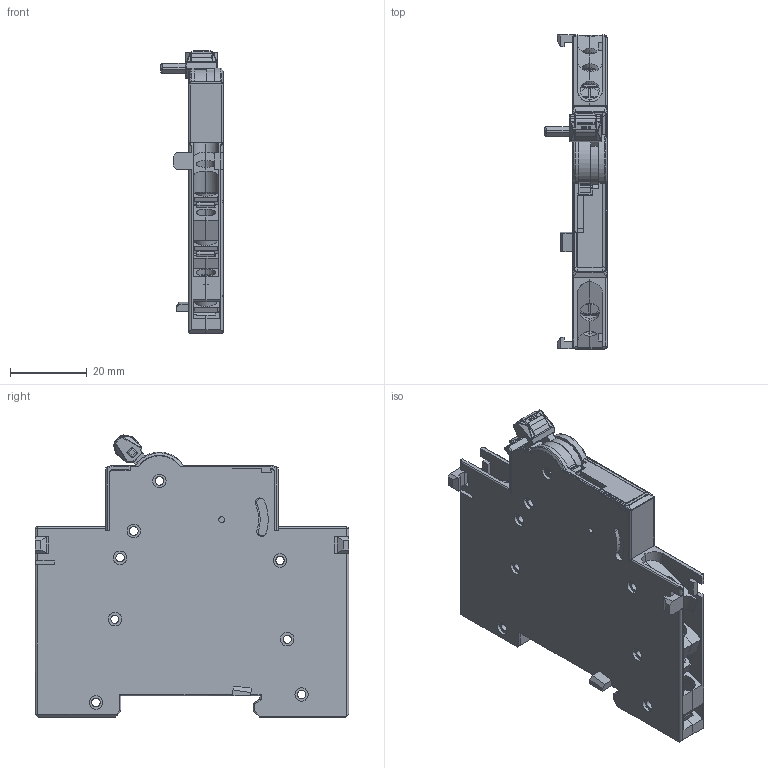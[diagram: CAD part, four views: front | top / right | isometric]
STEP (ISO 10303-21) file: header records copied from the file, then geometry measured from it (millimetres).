
FILE_DESCRIPTION (( 'STEP AP214' ), '1' );
FILE_NAME ('3D Model TGB3-OF3.stp.STEP', '2025-12-15T12:47:25', ( '' ), ( '' ), 'SwSTEP 2.0', 'SolidWorks 2024', '' );
FILE_SCHEMA (( 'AUTOMOTIVE_DESIGN' ));
Length unit declared in the file: millimetre
Products named in the file (21): ADMI1CFC0541PIPC_32.stp; ADMI1CFC0541PIPC_47.stp; ADMI1CFC0541PIPC_36.stp; ADMI1CFC0541PIPC_45.stp; ADMI1CFC0541PIPC_48.stp; ADMI1CFC0541PIPC_34.stp; ADMI1CFC0541PIPC_30.stp; ADMI1CFC0541PIPC_27.stp; ADMI1CFC0541PIPC_38.stp; ADMI1CFC0541PIPC_37.stp; ADMI1CFC0541PIPC_26.stp; ADMI1CFC0541PIPC_43.stp; ADMI1CFC0541PIPC_35.stp; ADMI1CFC0541PIPC_39.stp; ADMI1CFC0541PIPC_40.stp; ADMI1CFC0541PIPC_49.stp; ADMI1CFC0541PIPC_33.stp; 3D Model TGB3-OF3.stp; ADMI1CFC0541PIPC_46.stp; ADMI1CFC0541PIPC_28.stp; ADMI1CFC0541PIPC_41.stp
Assembly tree (20 placements, depth 2):
  3D Model TGB3-OF3.stp
    ADMI1CFC0541PIPC_26.stp
    ADMI1CFC0541PIPC_27.stp
    ADMI1CFC0541PIPC_28.stp
    ADMI1CFC0541PIPC_30.stp
    ADMI1CFC0541PIPC_32.stp
    ADMI1CFC0541PIPC_33.stp
    ADMI1CFC0541PIPC_34.stp
    ADMI1CFC0541PIPC_35.stp
    ADMI1CFC0541PIPC_36.stp
    ADMI1CFC0541PIPC_37.stp
    ADMI1CFC0541PIPC_38.stp
    ADMI1CFC0541PIPC_39.stp
    ADMI1CFC0541PIPC_40.stp
    ADMI1CFC0541PIPC_41.stp
    ADMI1CFC0541PIPC_43.stp
    ADMI1CFC0541PIPC_45.stp
    ADMI1CFC0541PIPC_46.stp
    ADMI1CFC0541PIPC_47.stp
    ADMI1CFC0541PIPC_48.stp
    ADMI1CFC0541PIPC_49.stp
Bounding box: 16.21 x 81.7 x 73.46 mm (x, y, z)
Volume: 17145.5 mm3; surface area: 30731 mm2
Topology: 20 solids, 20 shells, 2023 faces, 5446 edges, 3503 vertices
Faces by surface type: plane 1180, cylinder 597, bspline 145, cone 58, torus 27, sphere 16
Entity records: 69047 total; most frequent: CARTESIAN_POINT 18454, ORIENTED_EDGE 10818, DIRECTION 9829, EDGE_CURVE 5409, LINE 3551, VECTOR 3551, VERTEX_POINT 3503, AXIS2_PLACEMENT_3D 3139
